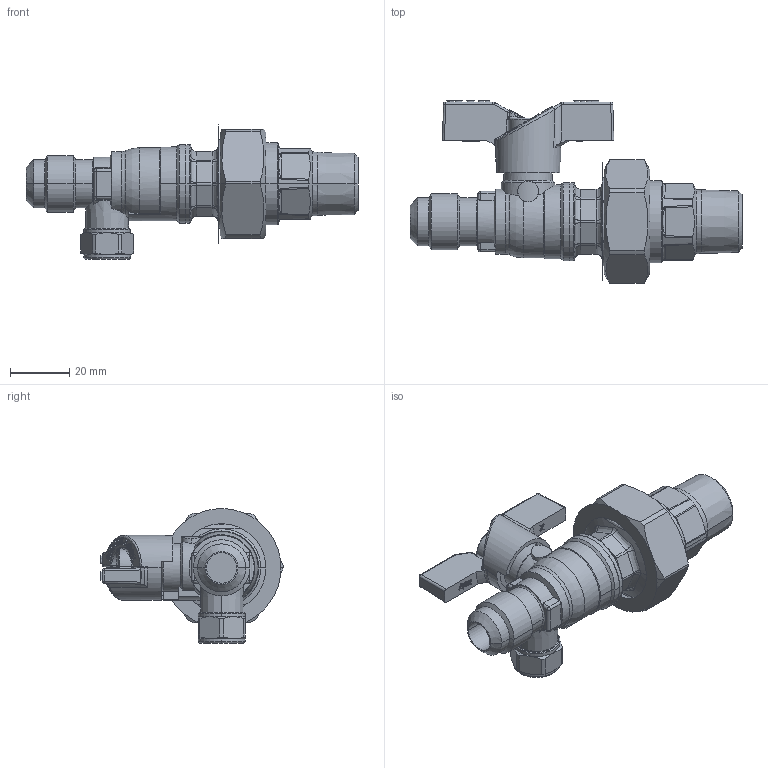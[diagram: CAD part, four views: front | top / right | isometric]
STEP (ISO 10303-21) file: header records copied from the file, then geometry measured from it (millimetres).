
FILE_DESCRIPTION((''),'2;1');
FILE_NAME('T203FLU_12_X_12M_ASM','2021-08-03T15:31:48',('Sergio.Dandrea'),(''),'CREO PARAMETRIC BY PTC INC, 2021063','CREO PARAMETRIC BY PTC INC, 2021063','');
FILE_SCHEMA(('CONFIG_CONTROL_DESIGN'));
Length unit declared in the file: millimetre
Products named in the file (18): 88315; SEDE_PTFE_F12; 87057; OR_107_AF0; OR_107_AF1; ASTA_T203_1-2_O-RING_ASM; 88402; 11104; 12146; 11108; 11109; 11107; 87046; 87131; 00191; 87218; 87058; T203FLU_12_X_12M_ASM
Assembly tree (18 placements, depth 3):
  T203FLU_12_X_12M_ASM
    88315
    SEDE_PTFE_F12  x2
    ASTA_T203_1-2_O-RING_ASM
      87057
      OR_107_AF0
      OR_107_AF1
    88402
    11104
    12146
    11108
    11109
    11107
    87046
    87131
    00191
    87218
    87058
Bounding box: 112.4 x 61.9 x 45.52 mm (x, y, z)
Volume: 50678.7 mm3; surface area: 41232.8 mm2
Topology: 17 solids, 25 shells, 1366 faces, 3448 edges, 2185 vertices
Faces by surface type: plane 434, extrusion 355, cylinder 223, bspline 135, cone 120, torus 67, sphere 16, revolution 16
Entity records: 51323 total; most frequent: CARTESIAN_POINT 20593, ORIENTED_EDGE 6798, DIRECTION 5193, EDGE_CURVE 3416, VERTEX_POINT 2169, VECTOR 1843, AXIS2_PLACEMENT_3D 1667, B_SPLINE_CURVE_WITH_KNOTS 1531
